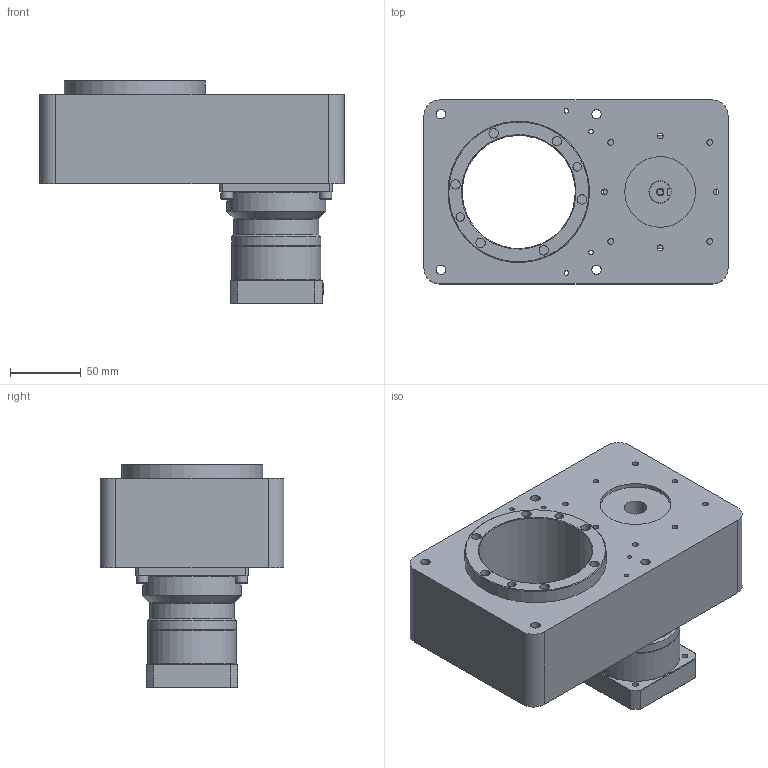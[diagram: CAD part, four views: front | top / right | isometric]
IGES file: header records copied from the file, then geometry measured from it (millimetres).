
Global section: file name: No Iges File Name specified; native system: Autodesk Inventor 2012; preprocessor: AutoDesk Inventor Iges Exporter R2012; author: disegnatore3; date: 20170118.141001; units: millimetre
Bounding box: 215 x 130 x 158 mm (x, y, z)
Volume: 1790130.9 mm3; surface area: 247176.2 mm2
Topology: 15 solids, 15 shells, 564 faces, 1234 edges, 785 vertices
Faces by surface type: plane 265, revolution 212, cylinder 40, cone 33, torus 14
Full cylindrical faces by diameter (mm): 4 x1, 5 x8, 7 x5, 8.5 x8, 16 x1, 18 x1, 52 x1, 60 x1, 63 x2, 70 x1, 100 x1
